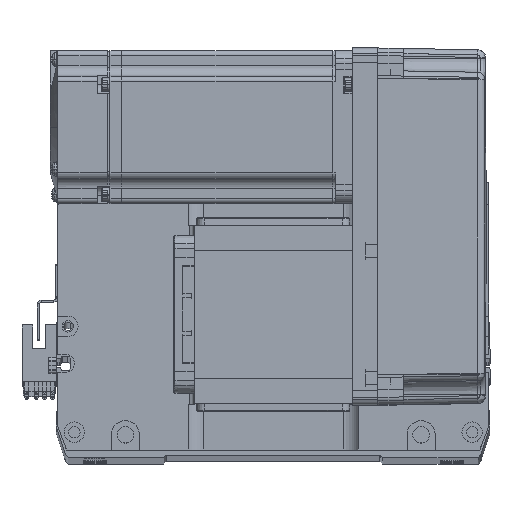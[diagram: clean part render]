
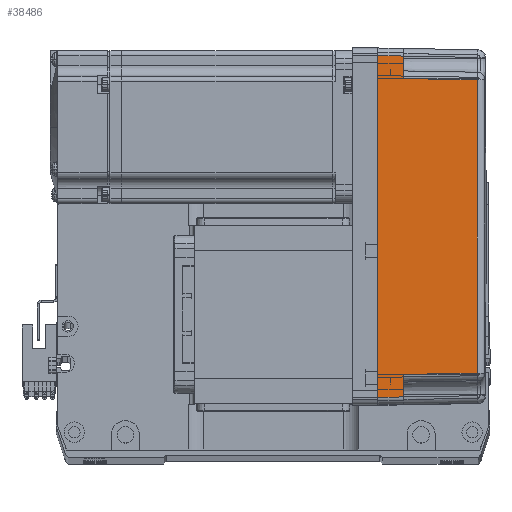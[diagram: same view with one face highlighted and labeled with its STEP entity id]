
A CAD part, top view. The second image highlights one B-rep face of the part: STEP entity #38486.
In plain terms, the highlighted planar face has unit normal (0.018, 0, 1) as drawn and (0, -1, 0.017) by its records, which use the part's own axes.
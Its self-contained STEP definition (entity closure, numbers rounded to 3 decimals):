
#358 = ORIENTED_EDGE ( 'NONE', *, *, #26714, .T. ) ;
#388 = ORIENTED_EDGE ( 'NONE', *, *, #37138, .T. ) ;
#2603 = CARTESIAN_POINT ( 'NONE',  ( -58., -35.825, 10. ) ) ;
#3150 = CARTESIAN_POINT ( 'NONE',  ( 19.165, -35.316, 39.181 ) ) ;
#4725 = CARTESIAN_POINT ( 'NONE',  ( 0., -36., 0. ) ) ;
#6218 = VECTOR ( 'NONE', #7287, 1000. ) ;
#7287 = DIRECTION ( 'NONE',  ( 0.017, 0.017, 1. ) ) ;
#7467 = LINE ( 'NONE', #53033, #23936 ) ;
#7563 = CARTESIAN_POINT ( 'NONE',  ( -57.495, -35.32, 38.985 ) ) ;
#7877 = VERTEX_POINT ( 'NONE', #60814 ) ;
#9157 = LINE ( 'NONE', #32161, #52886 ) ;
#9265 = DIRECTION ( 'NONE',  ( -1., 0., 0. ) ) ;
#9321 = LINE ( 'NONE', #33587, #56184 ) ;
#10561 = VERTEX_POINT ( 'NONE', #2603 ) ;
#11144 = EDGE_LOOP ( 'NONE', ( #16842, #17781, #14737, #388, #30900, #358, #19767, #18294 ) ) ;
#13142 = DIRECTION ( 'NONE',  ( 0., -0.017, -1. ) ) ;
#13241 = EDGE_CURVE ( 'NONE', #63083, #7877, #59611, .T. ) ;
#13600 = CARTESIAN_POINT ( 'NONE',  ( -57.495, -35.32, 38.985 ) ) ;
#14737 = ORIENTED_EDGE ( 'NONE', *, *, #13241, .T. ) ;
#14797 = FACE_OUTER_BOUND ( 'NONE', #11144, .T. ) ;
#16032 = EDGE_CURVE ( 'NONE', #46653, #63083, #7467, .T. ) ;
#16842 = ORIENTED_EDGE ( 'NONE', *, *, #25834, .T. ) ;
#17534 = DIRECTION ( 'NONE',  ( -0.017, 0.017, 1. ) ) ;
#17781 = ORIENTED_EDGE ( 'NONE', *, *, #16032, .T. ) ;
#17992 = CARTESIAN_POINT ( 'NONE',  ( 57.495, -35.32, 38.985 ) ) ;
#18294 = ORIENTED_EDGE ( 'NONE', *, *, #25857, .F. ) ;
#19241 = DIRECTION ( 'NONE',  ( -1., 0., 0. ) ) ;
#19637 = EDGE_CURVE ( 'NONE', #55106, #35374, #28838, .T. ) ;
#19767 = ORIENTED_EDGE ( 'NONE', *, *, #19637, .F. ) ;
#20676 = CARTESIAN_POINT ( 'NONE',  ( -67., -36., 0. ) ) ;
#22014 = VECTOR ( 'NONE', #48574, 1000. ) ;
#22757 = VECTOR ( 'NONE', #9265, 1000. ) ;
#22970 = DIRECTION ( 'NONE',  ( 0., -1., 0.017 ) ) ;
#23497 = VERTEX_POINT ( 'NONE', #7563 ) ;
#23936 = VECTOR ( 'NONE', #58453, 1000. ) ;
#25222 = VERTEX_POINT ( 'NONE', #48018 ) ;
#25834 = EDGE_CURVE ( 'NONE', #25222, #46653, #50855, .T. ) ;
#25857 = EDGE_CURVE ( 'NONE', #25222, #55106, #49292, .T. ) ;
#26714 = EDGE_CURVE ( 'NONE', #10561, #35374, #9321, .T. ) ;
#27785 = CARTESIAN_POINT ( 'NONE',  ( -66.959, -35.958, 2.39 ) ) ;
#28269 = CARTESIAN_POINT ( 'NONE',  ( 67., -36., 0. ) ) ;
#28838 = LINE ( 'NONE', #27785, #6218 ) ;
#30900 = ORIENTED_EDGE ( 'NONE', *, *, #49204, .T. ) ;
#31061 = CARTESIAN_POINT ( 'NONE',  ( 66.826, -35.825, 10. ) ) ;
#32161 = CARTESIAN_POINT ( 'NONE',  ( -57.495, -35.32, 38.985 ) ) ;
#33587 = CARTESIAN_POINT ( 'NONE',  ( 70., -35.825, 10. ) ) ;
#34139 = CARTESIAN_POINT ( 'NONE',  ( -66.826, -35.825, 10. ) ) ;
#34606 = VECTOR ( 'NONE', #17534, 1000. ) ;
#35374 = VERTEX_POINT ( 'NONE', #34139 ) ;
#37114 = CARTESIAN_POINT ( 'NONE',  ( 70., -36., 0. ) ) ;
#37138 = EDGE_CURVE ( 'NONE', #7877, #23497, #54700, .T. ) ;
#38486 = ADVANCED_FACE ( 'NONE', ( #14797 ), #47412, .T. ) ;
#42192 = DIRECTION ( 'NONE',  ( -0.017, -0.017, -1. ) ) ;
#44827 = CARTESIAN_POINT ( 'NONE',  ( 58., -35.825, 10. ) ) ;
#46653 = VERTEX_POINT ( 'NONE', #31061 ) ;
#47412 = PLANE ( 'NONE',  #57217 ) ;
#48018 = CARTESIAN_POINT ( 'NONE',  ( 67., -36., 0. ) ) ;
#48574 = DIRECTION ( 'NONE',  ( -0.017, 0.017, 1. ) ) ;
#49204 = EDGE_CURVE ( 'NONE', #23497, #10561, #9157, .T. ) ;
#49292 = LINE ( 'NONE', #4725, #22757 ) ;
#50855 = LINE ( 'NONE', #28269, #22014 ) ;
#52876 = CARTESIAN_POINT ( 'NONE',  ( -19.165, -35.316, 39.181 ) ) ;
#52886 = VECTOR ( 'NONE', #42192, 1000. ) ;
#53033 = CARTESIAN_POINT ( 'NONE',  ( 70., -35.825, 10. ) ) ;
#54700 = B_SPLINE_CURVE_WITH_KNOTS ( 'NONE', 3,
 ( #17992, #3150, #52876, #13600 ),
 .UNSPECIFIED., .F., .F.,
 ( 4, 4 ),
 ( 0., 1. ),
 .UNSPECIFIED. ) ;
#55106 = VERTEX_POINT ( 'NONE', #20676 ) ;
#56184 = VECTOR ( 'NONE', #19241, 1000. ) ;
#57217 = AXIS2_PLACEMENT_3D ( 'NONE', #37114, #22970, #13142 ) ;
#58055 = CARTESIAN_POINT ( 'NONE',  ( 58., -35.825, 10. ) ) ;
#58453 = DIRECTION ( 'NONE',  ( -1., 0., 0. ) ) ;
#59611 = LINE ( 'NONE', #58055, #34606 ) ;
#60814 = CARTESIAN_POINT ( 'NONE',  ( 57.495, -35.32, 38.985 ) ) ;
#63083 = VERTEX_POINT ( 'NONE', #44827 ) ;
